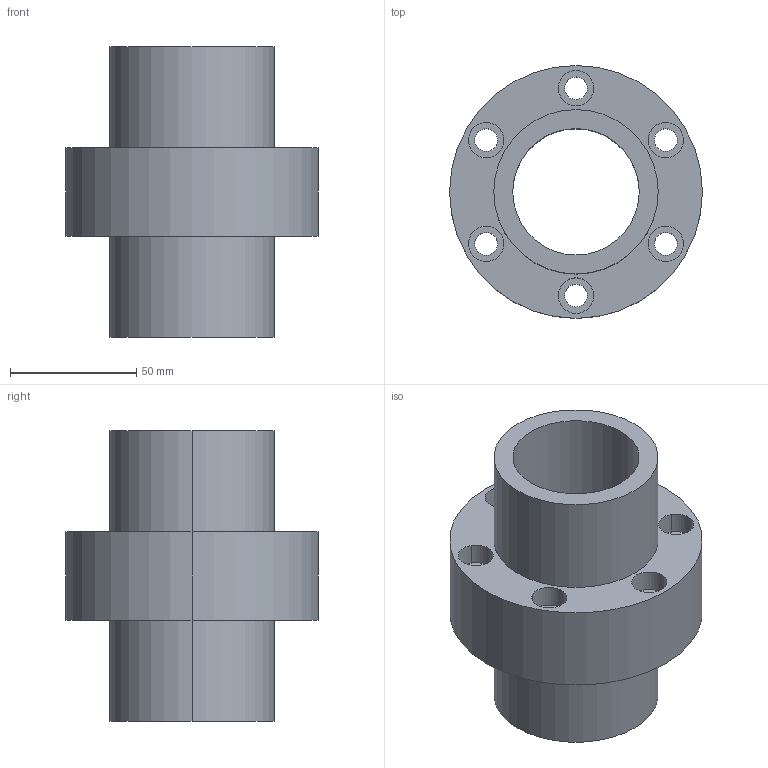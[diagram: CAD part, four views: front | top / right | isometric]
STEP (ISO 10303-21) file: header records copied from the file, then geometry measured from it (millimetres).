
FILE_DESCRIPTION((''),'2;1');
FILE_NAME('50-5T4','2008-04-07T',('yanyu'),(''),'PRO/ENGINEER BY PARAMETRIC TECHNOLOGY CORPORATION, 2005070','PRO/ENGINEER BY PARAMETRIC TECHNOLOGY CORPORATION, 2005070','');
FILE_SCHEMA(('CONFIG_CONTROL_DESIGN'));
Length unit declared in the file: millimetre
Products named in the file (1): 50-5T4
Bounding box: 100 x 100 x 115 mm (x, y, z)
Volume: 296586 mm3; surface area: 63152.3 mm2
Topology: 1 solids, 1 shells, 42 faces, 100 edges, 68 vertices
Faces by surface type: cylinder 32, plane 10
Entity records: 1330 total; most frequent: DIRECTION 252, CARTESIAN_POINT 210, ORIENTED_EDGE 200, AXIS2_PLACEMENT_3D 110, EDGE_CURVE 100, VERTEX_POINT 68, CIRCLE 68, EDGE_LOOP 64
